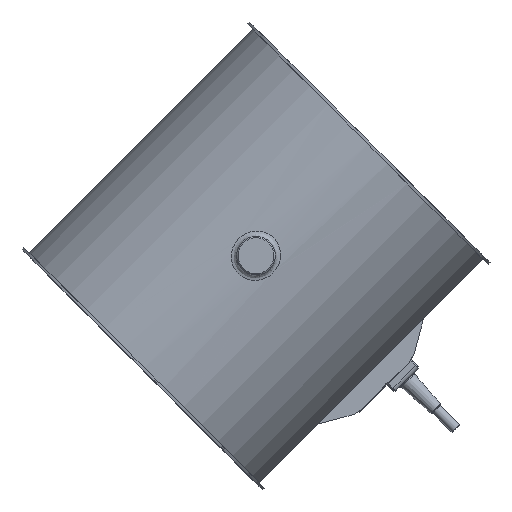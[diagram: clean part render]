
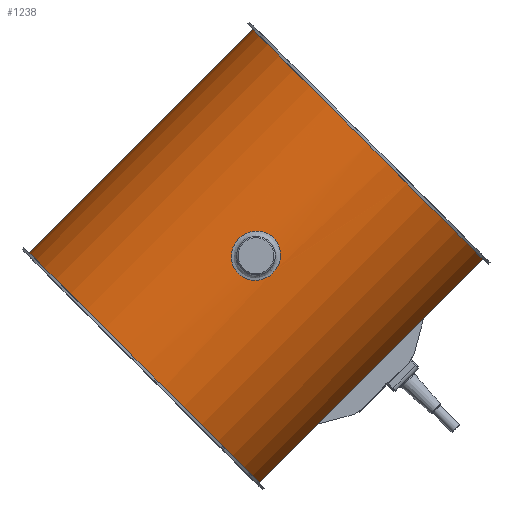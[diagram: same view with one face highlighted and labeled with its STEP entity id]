
A CAD part, top view. The second image highlights one B-rep face of the part: STEP entity #1238.
In plain terms, the highlighted cylindrical face has radius 126.5 mm (diameter 253 mm), a full revolution.
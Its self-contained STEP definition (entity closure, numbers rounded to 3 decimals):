
#833=CARTESIAN_POINT('',(-125.,19.423,120.23));
#834=VERTEX_POINT('',#833);
#835=CARTESIAN_POINT('',(-125.,19.423,129.77));
#836=VERTEX_POINT('',#835);
#837=CARTESIAN_POINT('',(-125.,19.423,120.23));
#838=DIRECTION('',(0.0,0.0,1.0));
#839=VECTOR('',#838,9.539);
#840=LINE('',#837,#839);
#841=EDGE_CURVE('',#834,#836,#840,.T.);
#858=CARTESIAN_POINT('',(-125.,-19.423,129.77));
#859=VERTEX_POINT('',#858);
#860=CARTESIAN_POINT('',(-125.,-19.423,120.23));
#861=VERTEX_POINT('',#860);
#862=CARTESIAN_POINT('',(-125.,-19.423,129.77));
#863=DIRECTION('',(0.0,0.0,-1.0));
#864=VECTOR('',#863,9.539);
#865=LINE('',#862,#864);
#866=EDGE_CURVE('',#859,#861,#865,.T.);
#883=CARTESIAN_POINT('',(-125.,-19.423,120.23));
#884=CARTESIAN_POINT('',(-125.037,-19.182,119.249));
#885=CARTESIAN_POINT('',(-125.086,-18.864,118.28));
#886=CARTESIAN_POINT('',(-125.219,-17.965,116.109));
#887=CARTESIAN_POINT('',(-125.31,-17.329,114.929));
#888=CARTESIAN_POINT('',(-125.504,-15.861,112.746));
#889=CARTESIAN_POINT('',(-125.607,-15.029,111.745));
#890=CARTESIAN_POINT('',(-125.807,-13.255,109.971));
#891=CARTESIAN_POINT('',(-125.91,-12.254,109.139));
#892=CARTESIAN_POINT('',(-126.103,-10.071,107.671));
#893=CARTESIAN_POINT('',(-126.193,-8.891,107.035));
#894=CARTESIAN_POINT('',(-126.343,-6.428,106.014));
#895=CARTESIAN_POINT('',(-126.402,-5.143,105.628));
#896=CARTESIAN_POINT('',(-126.481,-2.558,105.121));
#897=CARTESIAN_POINT('',(-126.5,-1.258,105.0));
#898=CARTESIAN_POINT('',(-126.5,1.258,105.0));
#899=CARTESIAN_POINT('',(-126.481,2.558,105.121));
#900=CARTESIAN_POINT('',(-126.402,5.143,105.628));
#901=CARTESIAN_POINT('',(-126.343,6.428,106.014));
#902=CARTESIAN_POINT('',(-126.193,8.891,107.035));
#903=CARTESIAN_POINT('',(-126.103,10.071,107.671));
#904=CARTESIAN_POINT('',(-125.91,12.254,109.139));
#905=CARTESIAN_POINT('',(-125.807,13.255,109.971));
#906=CARTESIAN_POINT('',(-125.607,15.029,111.745));
#907=CARTESIAN_POINT('',(-125.504,15.861,112.746));
#908=CARTESIAN_POINT('',(-125.31,17.329,114.929));
#909=CARTESIAN_POINT('',(-125.219,17.965,116.109));
#910=CARTESIAN_POINT('',(-125.086,18.864,118.28));
#911=CARTESIAN_POINT('',(-125.037,19.182,119.249));
#912=CARTESIAN_POINT('',(-125.,19.423,120.23));
#913=B_SPLINE_CURVE_WITH_KNOTS('',3,(#883,#884,#885,#886,#887,#888,#889,#890,#891,#892,#893,#894,#895,#896,#897,#898,#899,#900,#901,#902,#903,#904,#905,#906,#907,#908,#909,#910,#911,#912),.UNSPECIFIED.,.F.,.U.,(4,2,2,2,2,2,2,2,2,2,2,2,2,2,4),(6.505,6.793,7.17,7.547,7.925,8.302,8.679,9.057,9.434,9.812,10.189,10.566,10.944,11.321,11.609),.UNSPECIFIED.);
#914=EDGE_CURVE('',#861,#834,#913,.T.);
#917=CARTESIAN_POINT('',(-125.,19.423,129.77));
#918=CARTESIAN_POINT('',(-125.037,19.182,130.751));
#919=CARTESIAN_POINT('',(-125.086,18.864,131.72));
#920=CARTESIAN_POINT('',(-125.219,17.965,133.891));
#921=CARTESIAN_POINT('',(-125.31,17.329,135.071));
#922=CARTESIAN_POINT('',(-125.504,15.861,137.254));
#923=CARTESIAN_POINT('',(-125.607,15.029,138.255));
#924=CARTESIAN_POINT('',(-125.807,13.255,140.029));
#925=CARTESIAN_POINT('',(-125.91,12.254,140.861));
#926=CARTESIAN_POINT('',(-126.103,10.071,142.329));
#927=CARTESIAN_POINT('',(-126.193,8.891,142.965));
#928=CARTESIAN_POINT('',(-126.343,6.428,143.986));
#929=CARTESIAN_POINT('',(-126.402,5.143,144.372));
#930=CARTESIAN_POINT('',(-126.481,2.558,144.879));
#931=CARTESIAN_POINT('',(-126.5,1.258,145.));
#932=CARTESIAN_POINT('',(-126.5,-1.258,145.));
#933=CARTESIAN_POINT('',(-126.481,-2.558,144.879));
#934=CARTESIAN_POINT('',(-126.402,-5.143,144.372));
#935=CARTESIAN_POINT('',(-126.343,-6.428,143.986));
#936=CARTESIAN_POINT('',(-126.193,-8.891,142.965));
#937=CARTESIAN_POINT('',(-126.103,-10.071,142.329));
#938=CARTESIAN_POINT('',(-125.91,-12.254,140.861));
#939=CARTESIAN_POINT('',(-125.807,-13.255,140.029));
#940=CARTESIAN_POINT('',(-125.607,-15.029,138.255));
#941=CARTESIAN_POINT('',(-125.504,-15.861,137.254));
#942=CARTESIAN_POINT('',(-125.31,-17.329,135.071));
#943=CARTESIAN_POINT('',(-125.219,-17.965,133.891));
#944=CARTESIAN_POINT('',(-125.086,-18.864,131.72));
#945=CARTESIAN_POINT('',(-125.037,-19.182,130.751));
#946=CARTESIAN_POINT('',(-125.,-19.423,129.77));
#947=B_SPLINE_CURVE_WITH_KNOTS('',3,(#917,#918,#919,#920,#921,#922,#923,#924,#925,#926,#927,#928,#929,#930,#931,#932,#933,#934,#935,#936,#937,#938,#939,#940,#941,#942,#943,#944,#945,#946),.UNSPECIFIED.,.F.,.U.,(4,2,2,2,2,2,2,2,2,2,2,2,2,2,4),(0.467,0.755,1.132,1.509,1.887,2.264,2.642,3.019,3.396,3.774,4.151,4.528,4.906,5.283,5.571),.UNSPECIFIED.);
#948=EDGE_CURVE('',#836,#859,#947,.T.);
#1162=CARTESIAN_POINT('',(125.091,18.83,125.0));
#1163=VERTEX_POINT('',#1162);
#1173=CARTESIAN_POINT('',(125.091,18.83,125.));
#1174=CARTESIAN_POINT('',(125.091,18.83,125.));
#1175=CARTESIAN_POINT('',(125.091,18.83,125.));
#1176=CARTESIAN_POINT('',(125.091,18.83,125.));
#1177=CARTESIAN_POINT('',(125.091,18.83,125.726));
#1178=CARTESIAN_POINT('',(125.114,18.672,128.642));
#1179=CARTESIAN_POINT('',(125.349,17.107,134.302));
#1180=CARTESIAN_POINT('',(125.975,12.167,140.749));
#1181=CARTESIAN_POINT('',(126.474,5.018,144.324));
#1182=CARTESIAN_POINT('',(126.523,-0.693,144.664));
#1183=CARTESIAN_POINT('',(126.385,-6.271,143.692));
#1184=CARTESIAN_POINT('',(125.982,-12.122,140.775));
#1185=CARTESIAN_POINT('',(125.213,-18.143,133.004));
#1186=CARTESIAN_POINT('',(124.989,-19.473,123.951));
#1187=CARTESIAN_POINT('',(125.417,-16.664,114.523));
#1188=CARTESIAN_POINT('',(126.067,-11.348,108.586));
#1189=CARTESIAN_POINT('',(126.522,-3.383,105.344));
#1190=CARTESIAN_POINT('',(126.522,4.329,105.336));
#1191=CARTESIAN_POINT('',(125.976,12.147,109.235));
#1192=CARTESIAN_POINT('',(125.41,16.638,115.078));
#1193=CARTESIAN_POINT('',(125.14,18.509,120.608));
#1194=CARTESIAN_POINT('',(125.091,18.831,123.548));
#1195=CARTESIAN_POINT('',(125.091,18.83,125.));
#1196=B_SPLINE_CURVE_WITH_KNOTS('',3,(#1173,#1174,#1175,#1176,#1177,#1178,#1179,#1180,#1181,#1182,#1183,#1184,#1185,#1186,#1187,#1188,#1189,#1190,#1191,#1192,#1193,#1194,#1195),.UNSPECIFIED.,.T.,.U.,(4,3,1,1,1,1,1,1,1,1,1,1,1,1,1,1,1,1,4),(-9.05,-9.05,-8.888,-8.403,-7.757,-7.11,-6.626,-6.464,-5.818,-5.171,-4.309,-3.878,-3.017,-2.586,-1.939,-1.293,-0.646,-0.323,0.),.UNSPECIFIED.);
#1197=EDGE_CURVE('',#1163,#1163,#1196,.T.);
#1202=CARTESIAN_POINT('',(0.0,0.0,0.0));
#1203=DIRECTION('',(0.0,0.0,1.0));
#1204=DIRECTION('',(-1.0,0.0,0.0));
#1205=AXIS2_PLACEMENT_3D('',#1202,#1203,#1204);
#1206=CYLINDRICAL_SURFACE('',#1205,126.5);
#1207=CARTESIAN_POINT('',(126.5,0.,248.0));
#1208=VERTEX_POINT('',#1207);
#1209=CARTESIAN_POINT('',(0.0,0.0,248.0));
#1210=DIRECTION('',(0.0,0.0,-1.0));
#1211=DIRECTION('',(-1.0,0.0,0.0));
#1212=AXIS2_PLACEMENT_3D('',#1209,#1210,#1211);
#1213=CIRCLE('',#1212,126.5);
#1214=EDGE_CURVE('',#1208,#1208,#1213,.T.);
#1215=ORIENTED_EDGE('',*,*,#1214,.T.);
#1216=EDGE_LOOP('',(#1215));
#1217=FACE_OUTER_BOUND('',#1216,.T.);
#1218=ORIENTED_EDGE('',*,*,#948,.T.);
#1219=ORIENTED_EDGE('',*,*,#866,.T.);
#1220=ORIENTED_EDGE('',*,*,#914,.T.);
#1221=ORIENTED_EDGE('',*,*,#841,.T.);
#1222=EDGE_LOOP('',(#1218,#1219,#1220,#1221));
#1223=FACE_BOUND('',#1222,.T.);
#1224=CARTESIAN_POINT('',(-126.5,0.,2.0));
#1225=VERTEX_POINT('',#1224);
#1226=CARTESIAN_POINT('',(0.0,0.0,2.0));
#1227=DIRECTION('',(0.0,0.0,1.0));
#1228=DIRECTION('',(-1.0,0.0,0.0));
#1229=AXIS2_PLACEMENT_3D('',#1226,#1227,#1228);
#1230=CIRCLE('',#1229,126.5);
#1231=EDGE_CURVE('',#1225,#1225,#1230,.T.);
#1232=ORIENTED_EDGE('',*,*,#1231,.T.);
#1233=EDGE_LOOP('',(#1232));
#1234=FACE_BOUND('',#1233,.T.);
#1235=ORIENTED_EDGE('',*,*,#1197,.F.);
#1236=EDGE_LOOP('',(#1235));
#1237=FACE_BOUND('',#1236,.T.);
#1238=ADVANCED_FACE('',(#1217,#1223,#1234,#1237),#1206,.T.);
